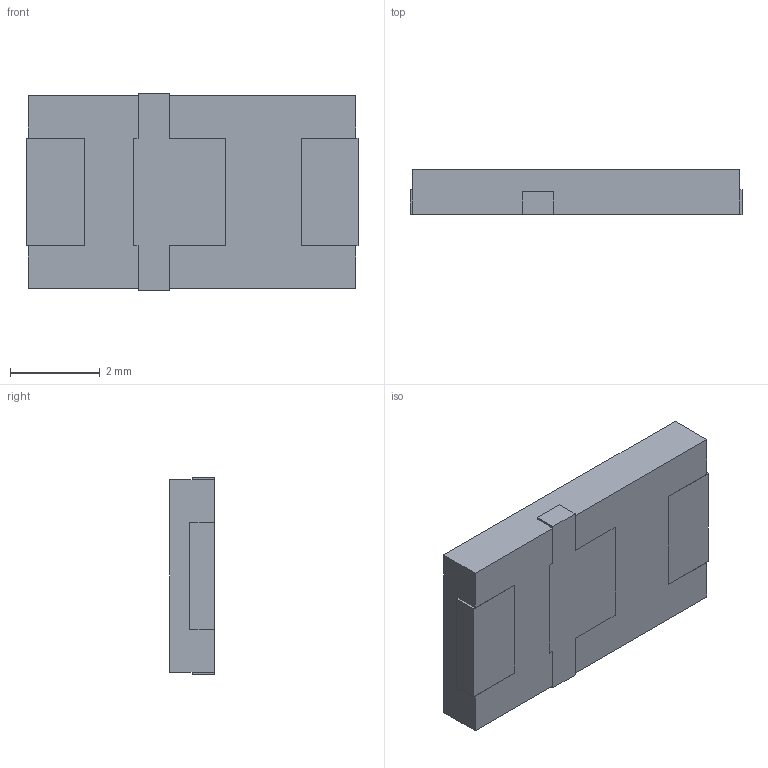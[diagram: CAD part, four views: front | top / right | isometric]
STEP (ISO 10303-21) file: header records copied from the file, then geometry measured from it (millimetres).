
FILE_DESCRIPTION (( 'STEP AP214' ), '1' );
FILE_NAME ('EEFLR0D221P.STEP', '2023-12-20T16:28:22', ( '' ), ( '' ), 'SwSTEP 2.0', 'SolidWorks 2021', '' );
FILE_SCHEMA (( 'AUTOMOTIVE_DESIGN' ));
Length unit declared in the file: millimetre
Products named in the file (1): EEFLR0D221P
Bounding box: 7.4 x 1 x 4.4 mm (x, y, z)
Volume: 31.7 mm3; surface area: 121 mm2
Topology: 4 solids, 4 shells, 60 faces, 156 edges, 104 vertices
Faces by surface type: plane 60
Entity records: 1861 total; most frequent: CARTESIAN_POINT 321, ORIENTED_EDGE 312, DIRECTION 278, LINE 156, EDGE_CURVE 156, VECTOR 156, VERTEX_POINT 104, AXIS2_PLACEMENT_3D 61
